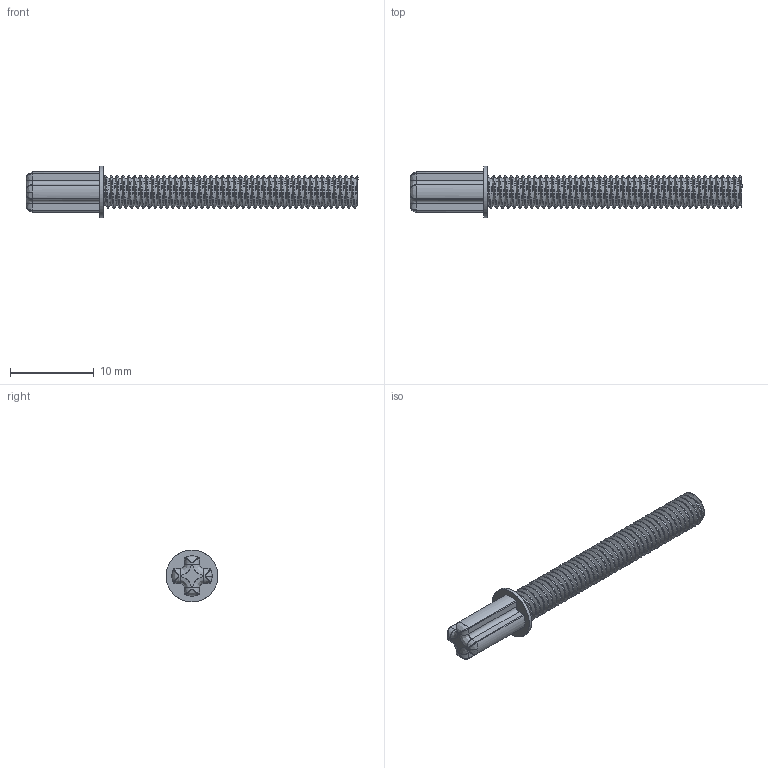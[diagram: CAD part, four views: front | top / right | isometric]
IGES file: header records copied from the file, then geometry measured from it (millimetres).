
Start section: C
Global section: file name: Or_4612100_c)_AVV.iges; native system: By Siemens PLM Incorporated; preprocessor: XPlus GENERIC/IGES 26.1.183; author: Author; organization: Title; date: 20250722.000207; units: millimetre
Bounding box: 39.6 x 6.18 x 6.2 mm (x, y, z)
Surface area: 769.8 mm2 (no closed solid volume)
Topology: 0 solids, 0 shells, 145 faces, 4618 edges, 4610 vertices
Faces by surface type: bspline 145
